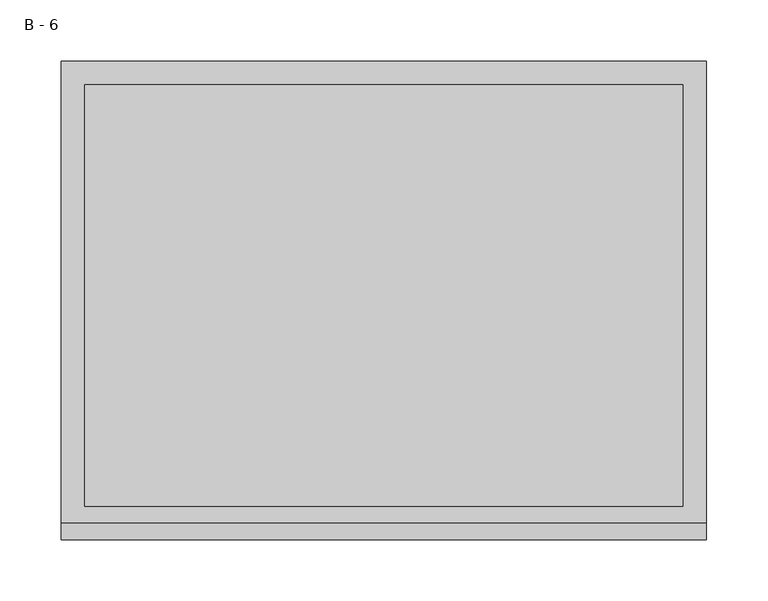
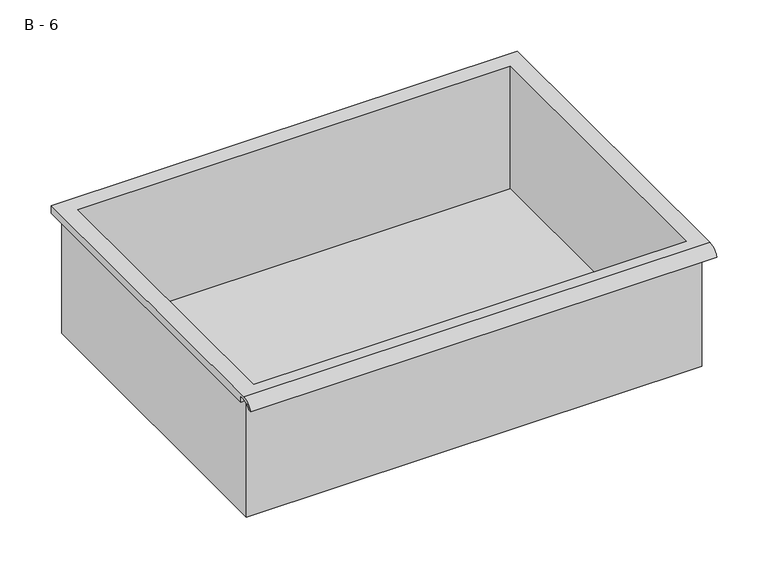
"""IFC4 building model written with IfcOpenShell, lengths in millimetres: furniture geometry, HermanMiller_CoStruc_CO207_Drawer : B - 6."""

import ifcopenshell
import ifcopenshell.guid

model = None  # the IFC model being written
_history = None  # IfcOwnerHistory: only IFC2X3 demands one
_inside = {}  # id of a spatial element -> (the spatial element, [elements in it])
_under = {}  # id of a project, library or spatial element -> (it, [spatial elements below it])
_declared = {}  # id of a project -> (the project, [libraries it declares])
_typed = {}  # id of a type object -> (the type object, [elements of that type])
_made_of = {}  # id of a material, layer set ... -> (it, [elements and type objects made of it])


def new_model(schema):
    """Start an empty IFC model of exactly this schema.

    Asked for "IFC4X3", IfcOpenShell would pick the latest addendum, in which some entities
    have other attributes; the version numbers below select the first issue.
    IFC2X3 requires an IfcOwnerHistory on every rooted entity: one is made here for all.
    """
    global model, _history
    if schema == "IFC4X3":
        model = ifcopenshell.file(schema_version=(4, 3, 0, 0))
    else:
        model = ifcopenshell.file(schema=schema)
    _inside.clear()
    _under.clear()
    _declared.clear()
    _typed.clear()
    _made_of.clear()
    _history = None
    if model.schema == "IFC2X3":
        org = make("IfcOrganization", Name="unknown")
        user = make(
            "IfcPersonAndOrganization",
            ThePerson=make("IfcPerson", FamilyName="unknown"),
            TheOrganization=org,
        )
        app = make(
            "IfcApplication",
            ApplicationDeveloper=org,
            Version="unknown",
            ApplicationFullName="unknown",
            ApplicationIdentifier="unknown",
        )
        _history = make(
            "IfcOwnerHistory",
            OwningUser=user,
            OwningApplication=app,
            ChangeAction="ADDED",
            CreationDate=0,
        )
    return model


def make(cls, **values):
    """One entity of the class cls with the attributes given. An attribute that is None is left unset."""
    return model.create_entity(
        cls, **{name: value for name, value in values.items() if value is not None}
    )


def rooted(cls, **values):
    """An entity with a GlobalId (a new one), such as an element, a storey or a relation."""
    return make(cls, GlobalId=ifcopenshell.guid.new(), OwnerHistory=_history, **values)


def si_unit(unit_type, name, prefix=None):
    """IfcSIUnit, for example si_unit("LENGTHUNIT", "METRE", prefix="MILLI")."""
    return make("IfcSIUnit", UnitType=unit_type, Prefix=prefix, Name=name)


def assignment(units):
    """IfcUnitAssignment: the units of a project."""
    return None if units is None else make("IfcUnitAssignment", Units=units)


def point(xyz):
    """IfcCartesianPoint."""
    return None if xyz is None else make("IfcCartesianPoint", Coordinates=xyz)


def direction(xyz):
    """IfcDirection."""
    return None if xyz is None else make("IfcDirection", DirectionRatios=xyz)


def frame(location, z_axis=None, x_axis=None):
    """IfcAxis2Placement3D, a coordinate frame: its origin and axes. An axis left out is left unset."""
    return make(
        "IfcAxis2Placement3D",
        Location=point(location),
        Axis=direction(z_axis),
        RefDirection=direction(x_axis),
    )


def origin():
    """The frame at (0, 0, 0) with its axes left unset."""
    return frame((0.0, 0.0, 0.0))


def place(relative_to, where):
    """IfcLocalPlacement: puts the frame where relative to a parent placement (None: the world)."""
    return make(
        "IfcLocalPlacement", PlacementRelTo=relative_to, RelativePlacement=where
    )


def context(
    kind, dimensions, precision=None, world=None, true_north=None, identifier=None
):
    """IfcGeometricRepresentationContext, for example the 3D "Model" context."""
    return make(
        "IfcGeometricRepresentationContext",
        ContextIdentifier=identifier,
        ContextType=kind,
        CoordinateSpaceDimension=dimensions,
        Precision=precision,
        WorldCoordinateSystem=world,
        TrueNorth=true_north,
    )


def project(units=None, contexts=None):
    """IfcProject with its units and contexts."""
    return rooted(
        "IfcProject",
        Name="project",
        RepresentationContexts=contexts,
        UnitsInContext=assignment(units),
    )


def spatial(cls, under=None, at=None, **own):
    """A site, building, storey or space (cls), placed at a placement, below another one or the project."""
    s = rooted(cls, ObjectPlacement=at, **own)
    if under is not None:
        _under.setdefault(under.id(), (under, []))[1].append(s)
    return s


def polyline(points):
    """IfcPolyline through the points."""
    return make("IfcPolyline", Points=[point(p) for p in points])


def circle_curve(where, radius):
    """IfcCircle in the frame where."""
    return make("IfcCircle", Position=where, Radius=radius)


def shape(context_of_items, identifier, shape_type, items):
    """IfcShapeRepresentation: the items that make up one representation, for example the "Body"."""
    return make(
        "IfcShapeRepresentation",
        ContextOfItems=context_of_items,
        RepresentationIdentifier=identifier,
        RepresentationType=shape_type,
        Items=items,
    )


def source(mapping_origin, context_of_items, identifier, shape_type, items):
    """IfcRepresentationMap: a shape defined once, which mapped items show again and again."""
    return make(
        "IfcRepresentationMap",
        MappingOrigin=mapping_origin,
        MappedRepresentation=shape(context_of_items, identifier, shape_type, items),
    )


def transform(
    local_origin,
    x_axis=None,
    y_axis=None,
    z_axis=None,
    scale=None,
    scale2=None,
    scale3=None,
    uniform=True,
):
    """IfcCartesianTransformationOperator3D, or its non-uniform kind. x_axis, y_axis, z_axis: its Axis1, 2, 3."""
    if uniform:
        return make(
            "IfcCartesianTransformationOperator3D",
            Axis1=direction(x_axis),
            Axis2=direction(y_axis),
            LocalOrigin=point(local_origin),
            Scale=scale,
            Axis3=direction(z_axis),
        )
    return make(
        "IfcCartesianTransformationOperator3DnonUniform",
        Axis1=direction(x_axis),
        Axis2=direction(y_axis),
        LocalOrigin=point(local_origin),
        Scale=scale,
        Axis3=direction(z_axis),
        Scale2=scale2,
        Scale3=scale3,
    )


def mapped(mapping_source, mapping_target):
    """IfcMappedItem: shows the shape of a source again, moved by a transform."""
    return make(
        "IfcMappedItem", MappingSource=mapping_source, MappingTarget=mapping_target
    )


def made_of(thing, what):
    """Note that an element or type object is made of a material, layer set ...; save() writes the relation."""
    if what is not None:
        _made_of.setdefault(what.id(), (what, []))[1].append(thing)
    return thing


def element(
    cls,
    number,
    at=None,
    inside=None,
    cuts=None,
    type_object=None,
    material=None,
    context=None,
    identifier="Body",
    shape_type=None,
    held_by="IfcProductDefinitionShape",
    body=None,
    shapes=None,
    **own,
):
    """One element of the class cls, such as IfcWall. Its Tag is "e" and its number.

    at: its placement. inside: the storey or other place that contains it. cuts: it is an
    opening in that element (IfcRelVoidsElement). A single representation is given by context,
    identifier, shape_type and body (its items); several are given by shapes. held_by: the class
    of the entity that holds the representations. save() writes the other relations.
    """
    e = rooted(cls, Tag="e%d" % number, ObjectPlacement=at, **own)
    if body is not None:
        shapes = [shape(context, identifier, shape_type, body)]
    if shapes is not None:
        e.Representation = make(held_by, Representations=shapes)
    if inside is not None:
        _inside.setdefault(inside.id(), (inside, []))[1].append(e)
    if cuts is not None:
        rooted(
            "IfcRelVoidsElement", RelatingBuildingElement=cuts, RelatedOpeningElement=e
        )
    if type_object is not None:
        _typed.setdefault(type_object.id(), (type_object, []))[1].append(e)
    return made_of(e, material)


def aggregate(whole, parts):
    """IfcRelAggregates: a whole, such as a stair, and the parts it consists of."""
    return rooted("IfcRelAggregates", RelatingObject=whole, RelatedObjects=parts)


def save(model, path):
    """Write the relations noted so far, then the file.

    IfcRelAggregates (storeys below a building ...), IfcRelContainedInSpatialStructure (elements
    in a storey), IfcRelDefinesByType, IfcRelAssociatesMaterial and IfcRelDeclares: one each for
    every whole, place, type object, material and project.
    """
    for whole, parts in _under.values():
        aggregate(whole, parts)
    for where, things in _inside.values():
        rooted(
            "IfcRelContainedInSpatialStructure",
            RelatedElements=things,
            RelatingStructure=where,
        )
    for kind, things in _typed.values():
        rooted("IfcRelDefinesByType", RelatedObjects=things, RelatingType=kind)
    for what, things in _made_of.values():
        rooted("IfcRelAssociatesMaterial", RelatedObjects=things, RelatingMaterial=what)
    for by, libraries in _declared.values():
        rooted("IfcRelDeclares", RelatingContext=by, RelatedDefinitions=libraries)
    model.write(path)


def plane_surface(at):
    """IfcPlane: the flat surface through the origin of the frame at, square to its z axis."""
    return make("IfcPlane", Position=at)


def cylinder_surface(at, radius):
    """IfcCylindricalSurface: all points at the distance radius from the z axis of the frame at."""
    return make("IfcCylindricalSurface", Position=at, Radius=radius)


def revolved_surface(curve, axis_point, axis_direction):
    """IfcSurfaceOfRevolution: the curve turned about the line through axis_point along axis_direction."""
    return make(
        "IfcSurfaceOfRevolution",
        SweptCurve=make("IfcArbitraryOpenProfileDef", ProfileType="CURVE", Curve=curve),
        AxisPosition=make("IfcAxis1Placement", Location=point(axis_point), Axis=direction(axis_direction)),
    )


def advanced_brep(points, edges, surfaces, faces):
    """IfcAdvancedBrep: a solid bounded by faces that lie on surfaces and meet in shared edges.

    An edge is (start, end): straight between two places in points (the first is 0);
    or (start, end, curve); or (start, end, curve, False) where it runs against its curve.
    A face is (place in surfaces, loops), or (place, loops, False) where it looks against
    its surface's normal. A loop lists edges by number (the first is 1), with a minus sign
    where the edge is run from its end to its start. The first loop is the outer one.
    """
    corners = [point(p) for p in points]
    vertices = [make("IfcVertexPoint", VertexGeometry=c) for c in corners]
    made = []
    for start, end, *more in edges:
        made.append(
            make(
                "IfcEdgeCurve",
                EdgeStart=vertices[start],
                EdgeEnd=vertices[end],
                EdgeGeometry=more[0] if more else make("IfcPolyline", Points=[corners[start], corners[end]]),
                SameSense=more[1] if len(more) > 1 else True,
            )
        )
    hull = []
    for where, loops, *sense in faces:
        bounds = []
        for j, loop in enumerate(loops):
            ring = [make("IfcOrientedEdge", EdgeElement=made[abs(k) - 1], Orientation=k > 0) for k in loop]
            bounds.append(
                make(
                    "IfcFaceOuterBound" if j == 0 else "IfcFaceBound",
                    Bound=make("IfcEdgeLoop", EdgeList=ring),
                    Orientation=True,
                )
            )
        hull.append(make("IfcAdvancedFace", Bounds=bounds, FaceSurface=surfaces[where], SameSense=sense[0] if sense else True))
    return make("IfcAdvancedBrep", Outer=make("IfcClosedShell", CfsFaces=hull))


def b_6_d9770578(model_context):
    return source(origin(), model_context, "Body", "AdvancedBrep", [
        advanced_brep(
        [(-257.1076517, -176.2125, 728.6752), (257.2423483, -176.2125, 728.6752), (257.2423483, -176.2125, 868.3752), (263.5923483, -176.2125, 868.3752), (263.5923483, -176.2125, 874.6823341), (-263.4576517, -176.2125, 874.6823341), (-263.4576517, -176.2125, 868.3752), (-257.1076517, -176.2125, 868.3752), (257.2423483, 185.7375, 728.6752), (-257.1076517, 185.7375, 728.6752), (-257.1076517, 185.7375, 868.3752), (257.2423483, 185.7375, 868.3752), (263.5923483, -181.6070544, 877.9002), (263.5923483, 195.2625, 877.9002), (-263.4576517, 195.2625, 877.9002), (-263.4576517, -181.6070544, 877.9002), (244.5423483, -168.275, 877.9002), (-244.4076517, -168.275, 877.9002), (-244.4076517, 176.2125, 877.9002), (244.5423483, 176.2125, 877.9002), (263.5923483, -195.2625, 868.3752), (263.5923483, -191.8280601, 868.3752), (263.5923483, -180.4714815, 874.6823341), (263.5923483, 195.2625, 868.3752), (-263.4576517, 195.2625, 868.3752), (-263.4576517, -180.4714815, 874.6823341), (-263.4576517, -191.8280601, 868.3752), (-263.4576517, -195.2625, 868.3752), (-244.4076517, -168.275, 731.7013719), (244.5423483, -168.275, 731.7013719), (244.5423483, 176.2125, 731.7013719), (-244.4076517, 176.2125, 731.7013719)],
        [
            (0, 1),
            (1, 2),
            (2, 3),
            (3, 4),
            (4, 5),
            (5, 6),
            (6, 7),
            (7, 0),
            (8, 9),
            (9, 10),
            (10, 11),
            (11, 8),
            (0, 9),
            (8, 1),
            (11, 2),
            (12, 13),
            (13, 14),
            (14, 15),
            (15, 12),
            (16, 17),
            (17, 18),
            (18, 19),
            (19, 16),
            (7, 10),
            (12, 20, circle_curve(frame((263.5923483, -181.6070544, 863.3491859), z_axis=(1.0, 0.0, 0.0), x_axis=(0.0, 1.0, 0.0)), 14.5510141)),
            (20, 21),
            (21, 22, circle_curve(frame((263.5923483, -181.6070544, 863.3491859), z_axis=(-1.0, 0.0, 0.0), x_axis=(0.0, 1.0, 0.0)), 11.3898979)),
            (22, 4),
            (3, 23),
            (23, 13),
            (14, 24),
            (24, 6),
            (5, 25),
            (25, 26, circle_curve(frame((-263.4576517, -181.6070544, 863.3491859), z_axis=(1.0, 0.0, 0.0), x_axis=(0.0, 1.0, 0.0)), 11.3898979)),
            (26, 27),
            (27, 15, circle_curve(frame((-263.4576517, -181.6070544, 863.3491859), z_axis=(-1.0, 0.0, 0.0), x_axis=(0.0, 1.0, 0.0)), 14.5510141)),
            (27, 20),
            (26, 21),
            (25, 22),
            (24, 23),
            (28, 29),
            (29, 30),
            (30, 31),
            (31, 28),
            (28, 17),
            (16, 29),
            (19, 30),
            (18, 31),
        ],
        [
            plane_surface(frame((257.2423483, -176.2125, 728.6752), z_axis=(0.0, -1.0, 0.0), x_axis=(1.0, 0.0, 0.0))),
            plane_surface(frame((257.2423483, 185.7375, 728.6752), z_axis=(0.0, 1.0, 0.0), x_axis=(-1.0, 0.0, 0.0))),
            plane_surface(frame((-257.1076517, -176.2125, 728.6752), z_axis=(0.0, 0.0, -1.0), x_axis=(0.0, 1.0, 0.0))),
            plane_surface(frame((257.2423483, -176.2125, 728.6752), z_axis=(1.0, 0.0, 0.0), x_axis=(0.0, 1.0, 0.0))),
            plane_surface(frame((257.2423483, -176.2125, 877.9002), z_axis=(0.0, 0.0, 1.0), x_axis=(0.0, 1.0, 0.0))),
            plane_surface(frame((-257.1076517, -176.2125, 877.9002), z_axis=(-1.0, 0.0, 0.0), x_axis=(0.0, 1.0, 0.0))),
            plane_surface(frame((263.5923483, 195.2625, 877.9002), z_axis=(1.0, 0.0, 0.0), x_axis=(0.0, -1.0, 0.0))),
            plane_surface(frame((-263.4576517, 195.2625, 877.9002), z_axis=(-1.0, 0.0, 0.0), x_axis=(0.0, 1.0, 0.0))),
            cylinder_surface(frame((-263.4576517, -181.6070544, 863.3491859), z_axis=(1.0, 0.0, 0.0), x_axis=(0.0, 1.0, 0.0)), 14.5510141),
            plane_surface(frame((263.5923483, -195.2625, 868.3752), z_axis=(0.0, -7.251821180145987e-12, -1.0), x_axis=(-1.0, 0.0, 0.0))),
            revolved_surface(polyline([(-263.4576517, -170.21715650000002, 863.3491859), (263.59234829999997, -170.21715650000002, 863.3491859)]), (-263.4576517, -181.6070544, 863.3491859), (-1.0, 0.0, 0.0)),
            plane_surface(frame((263.5923483, -180.4714815, 874.6823341), z_axis=(0.0, -1.7956755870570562e-11, -1.0), x_axis=(-1.0, 0.0, 0.0))),
            plane_surface(frame((263.5923483, -176.2125, 868.3752), z_axis=(0.0, 0.0, -1.0), x_axis=(-1.0, 0.0, 0.0))),
            plane_surface(frame((263.5923483, 195.2625, 868.3752), z_axis=(0.0, 1.0, 0.0), x_axis=(-1.0, 0.0, 0.0))),
            plane_surface(frame((244.5423483, -168.275, 731.7013719), z_axis=(0.0, 0.0, 1.0), x_axis=(-1.0, 0.0, 0.0))),
            plane_surface(frame((-244.4076517, -168.275, 877.9002), z_axis=(0.0, 1.0, 0.0), x_axis=(0.0, 0.0, -1.0))),
            plane_surface(frame((244.5423483, -168.275, 877.9002), z_axis=(-1.0, 0.0, 0.0), x_axis=(0.0, 0.0, -1.0))),
            plane_surface(frame((244.5423483, 176.2125, 877.9002), z_axis=(0.0, -1.0, 0.0), x_axis=(0.0, 0.0, -1.0))),
            plane_surface(frame((-244.4076517, 176.2125, 877.9002), z_axis=(1.0, 0.0, 0.0), x_axis=(0.0, 0.0, -1.0))),
        ],
        [
            (0, [[1, 2, 3, 4, 5, 6, 7, 8]]),
            (1, [[9, 10, 11, 12]]),
            (2, [[-1, 13, -9, 14]]),
            (3, [[-14, -12, 15, -2]]),
            (4, [[16, 17, 18, 19], [20, 21, 22, 23]]),
            (5, [[-13, -8, 24, -10]]),
            (6, [[-16, 25, 26, 27, 28, -4, 29, 30]]),
            (7, [[31, 32, -6, 33, 34, 35, 36, -18]]),
            (8, [[-25, -19, -36, 37]]),
            (9, [[-26, -37, -35, 38]]),
            (10, [[-27, -38, -34, 39]]),
            (11, [[-28, -39, -33, -5]]),
            (12, [[-29, -3, -15, -11, -24, -7, -32, 40]]),
            (13, [[-30, -40, -31, -17]]),
            (14, [[41, 42, 43, 44]]),
            (15, [[-41, 45, -20, 46]]),
            (16, [[-42, -46, -23, 47]]),
            (17, [[-43, -47, -22, 48]]),
            (18, [[-44, -48, -21, -45]]),
        ],
    ),
    ])


if __name__ == "__main__":
    model = new_model("IFC4")
    model_context = context("Model", 3, world=origin())
    ifc_project = project(units=[si_unit("LENGTHUNIT", "METRE", prefix="MILLI")], contexts=[model_context])
    site = spatial("IfcSite", under=ifc_project)
    building = spatial("IfcBuilding", under=site)
    placement = place(None, origin())
    b_6_shape = b_6_d9770578(model_context)
    element("IfcFurniture", 1, ObjectType="HermanMiller_CoStruc_CO207_Drawer : B - 6", at=placement, inside=building, context=model_context, shape_type="MappedRepresentation", body=[
        mapped(b_6_shape, transform((0.0, 0.0, 0.0), x_axis=(1.0, 0.0, 0.0), y_axis=(0.0, 1.0, 0.0), z_axis=(0.0, 0.0, 1.0))),
    ])
    save(model, "model.ifc")
